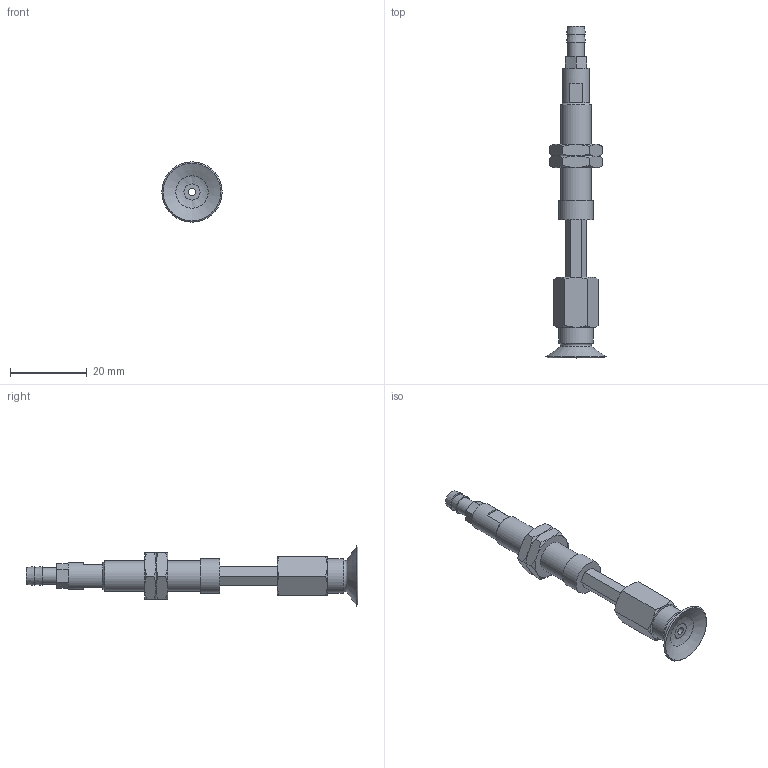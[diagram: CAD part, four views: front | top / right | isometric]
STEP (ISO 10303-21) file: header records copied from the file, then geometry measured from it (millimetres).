
FILE_DESCRIPTION(('STEP AP203'),'1');
FILE_NAME('-T.stp','2025-08-27T03:17:01',(' '),(' '),'Spatial InterOp 3D',' ',' ');
FILE_SCHEMA(('CONFIG_CONTROL_DESIGN'));
Length unit declared in the file: millimetre
Products named in the file (7): BNABPFTH-15A-15-※-T; ADAPTER; NAPATH-10A-15--M; Nut-15A-15-h; NAPFTH-15A-15-FBODY; BPFG-15A-※; T
Assembly tree (7 placements, depth 2):
  BNABPFTH-15A-15-※-T
    ADAPTER
    NAPATH-10A-15--M
    Nut-15A-15-h  x2
    NAPFTH-15A-15-FBODY
    BPFG-15A-※
    T
Bounding box: 15.7 x 86.5 x 15.7 mm (x, y, z)
Volume: 4224.6 mm3; surface area: 5335.1 mm2
Topology: 7 solids, 7 shells, 141 faces, 299 edges, 183 vertices
Faces by surface type: plane 65, cone 49, cylinder 17, torus 9, bspline 1
Full cylindrical faces by diameter (mm): 2 x3, 3 x1, 4 x2, 4.134 x1, 4.3 x1, 5 x1, 6 x2, 7 x1, 7.188 x2, 8 x1, 9 x2
Entity records: 3485 total; most frequent: CARTESIAN_POINT 795, DIRECTION 490, ORIENTED_EDGE 412, AXIS2_PLACEMENT_3D 207, EDGE_CURVE 206, EDGE_LOOP 178, VERTEX_POINT 148, FACE_OUTER_BOUND 144
